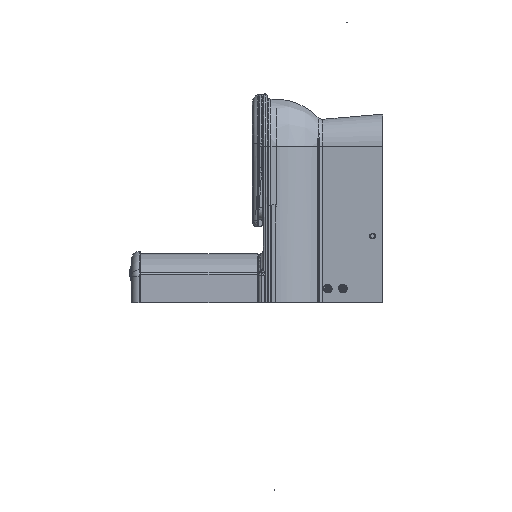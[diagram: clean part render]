
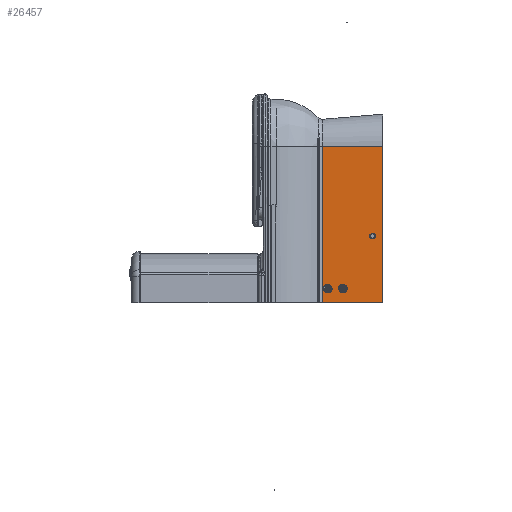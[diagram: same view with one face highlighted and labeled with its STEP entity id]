
A CAD part, left-side view. The second image highlights one B-rep face of the part: STEP entity #26457.
In plain terms, the highlighted planar face has unit normal (-0.996, 0.085, 0.005).
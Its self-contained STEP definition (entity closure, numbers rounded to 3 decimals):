
#4629 = LINE ( 'NONE', #103844, #127568 ) ;
#11293 = CARTESIAN_POINT ( 'NONE',  ( 6.642, -455.905, 182.558 ) ) ;
#11687 = CARTESIAN_POINT ( 'NONE',  ( 6.642, -455.905, 182.558 ) ) ;
#13785 = LINE ( 'NONE', #54993, #47467 ) ;
#14877 = FACE_OUTER_BOUND ( 'NONE', #73438, .T. ) ;
#17750 = EDGE_CURVE ( 'NONE', #109904, #157959, #4629, .T. ) ;
#26457 = ADVANCED_FACE ( 'NONE', ( #14877 ), #143070, .T. ) ;
#27814 = DIRECTION ( 'NONE',  ( -0.005, 0., -1. ) ) ;
#36680 = CARTESIAN_POINT ( 'NONE',  ( 23.801, -255.712, 182.394 ) ) ;
#43073 = LINE ( 'NONE', #11293, #137338 ) ;
#43084 = VERTEX_POINT ( 'NONE', #141942 ) ;
#45083 = LINE ( 'NONE', #175137, #53641 ) ;
#47467 = VECTOR ( 'NONE', #27814, 1000. ) ;
#47683 = DIRECTION ( 'NONE',  ( -0.085, -0.996, 0.001 ) ) ;
#48568 = EDGE_CURVE ( 'NONE', #109904, #137897, #13785, .T. ) ;
#53136 = EDGE_CURVE ( 'NONE', #157959, #43084, #43073, .T. ) ;
#53641 = VECTOR ( 'NONE', #160169, 1000. ) ;
#54993 = CARTESIAN_POINT ( 'NONE',  ( 21.303, -255.712, -340.136 ) ) ;
#73438 = EDGE_LOOP ( 'NONE', ( #99470, #133142, #105839, #125637 ) ) ;
#83230 = CARTESIAN_POINT ( 'NONE',  ( 6.642, -455.905, 182.558 ) ) ;
#98346 = DIRECTION ( 'NONE',  ( -0.005, 0., -1. ) ) ;
#99470 = ORIENTED_EDGE ( 'NONE', *, *, #17750, .F. ) ;
#103844 = CARTESIAN_POINT ( 'NONE',  ( 6.642, -455.905, 182.558 ) ) ;
#105839 = ORIENTED_EDGE ( 'NONE', *, *, #126803, .T. ) ;
#109904 = VERTEX_POINT ( 'NONE', #36680 ) ;
#125637 = ORIENTED_EDGE ( 'NONE', *, *, #53136, .F. ) ;
#126803 = EDGE_CURVE ( 'NONE', #137897, #43084, #45083, .T. ) ;
#127568 = VECTOR ( 'NONE', #47683, 1000. ) ;
#131810 = CARTESIAN_POINT ( 'NONE',  ( 21.303, -255.712, -340.141 ) ) ;
#133142 = ORIENTED_EDGE ( 'NONE', *, *, #48568, .T. ) ;
#137338 = VECTOR ( 'NONE', #98346, 1000. ) ;
#137897 = VERTEX_POINT ( 'NONE', #131810 ) ;
#140293 = DIRECTION ( 'NONE',  ( -0.996, 0.085, 0.005 ) ) ;
#141205 = DIRECTION ( 'NONE',  ( 0.085, 0.996, 0. ) ) ;
#141942 = CARTESIAN_POINT ( 'NONE',  ( 4.144, -455.905, -340.141 ) ) ;
#143070 = PLANE ( 'NONE',  #164774 ) ;
#157959 = VERTEX_POINT ( 'NONE', #11687 ) ;
#160169 = DIRECTION ( 'NONE',  ( -0.085, -0.996, 0. ) ) ;
#164774 = AXIS2_PLACEMENT_3D ( 'NONE', #83230, #140293, #141205 ) ;
#175137 = CARTESIAN_POINT ( 'NONE',  ( 3.648, -461.691, -340.141 ) ) ;
